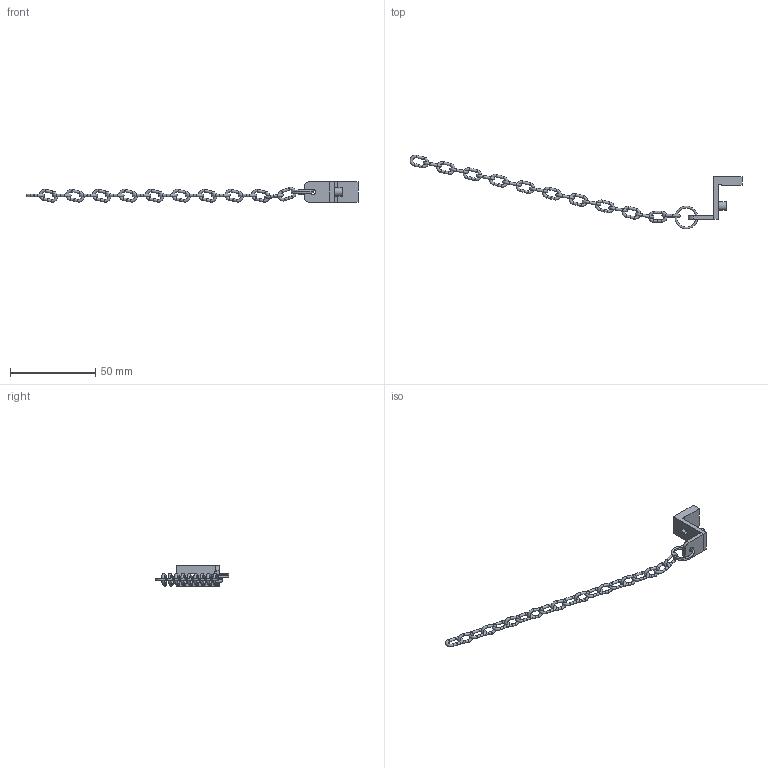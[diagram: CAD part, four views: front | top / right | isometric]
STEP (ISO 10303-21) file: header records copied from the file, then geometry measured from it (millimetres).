
FILE_DESCRIPTION(/* description */ ('ANELLO AD UNA SPIRA 8x05'),/* implementation_level */ '2;1');
FILE_NAME(/* name */ 'C:\Users\CAD2\Desktop\Nuova cartella\100.00.stp',/* time_stamp */ '2015-05-18T16:25:08+02:00',/* author */ ('CAD2'),/* organization */ (''),/* preprocessor_version */ 'ST-DEVELOPER v15.2',/* originating_system */ 'Autodesk Inventor 2014',/* authorisation */ '');
FILE_SCHEMA (('CONFIG_CONTROL_DESIGN'));
Length unit declared in the file: millimetre
Products named in the file (8): ANELLINO; MAGLIA DI CATENA; CATENELLA; Magnete Ø5x5; 100.01; 100.02; 100.03; 100.00
Bounding box: 194.73 x 43.29 x 12 mm (x, y, z)
Volume: 2917.7 mm3; surface area: 4474.2 mm2
Topology: 24 solids, 24 shells, 171 faces, 288 edges, 165 vertices
Faces by surface type: cylinder 66, plane 62, torus 42, bspline 1
Full cylindrical faces by diameter (mm): 1.5 x60, 3 x1, 5 x1
Entity records: 1583 total; most frequent: CARTESIAN_POINT 486, DIRECTION 232, ORIENTED_EDGE 138, AXIS2_PLACEMENT_3D 93, EDGE_CURVE 69, EDGE_LOOP 51, VERTEX_POINT 50, LINE 46
